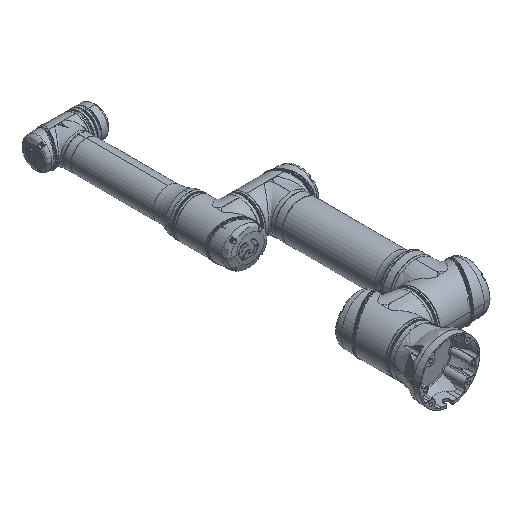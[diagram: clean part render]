
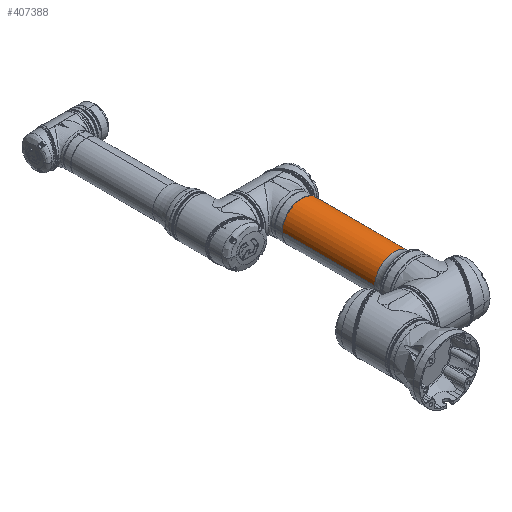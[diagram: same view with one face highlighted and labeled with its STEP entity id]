
A CAD part, isometric view. The second image highlights one B-rep face of the part: STEP entity #407388.
In plain terms, the highlighted cylindrical face has radius 48.5 mm (diameter 97 mm), a partial arc.
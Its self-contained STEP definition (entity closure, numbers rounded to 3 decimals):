
#698 = CARTESIAN_POINT ( 'NONE',  ( 116.698, 0., -189.5 ) ) ;
#4770 = EDGE_LOOP ( 'NONE', ( #519302, #203862, #13042, #338039 ) ) ;
#13042 = ORIENTED_EDGE ( 'NONE', *, *, #40452, .T. ) ;
#40452 = EDGE_CURVE ( 'NONE', #490223, #542623, #242943, .T. ) ;
#50903 = VERTEX_POINT ( 'NONE', #698 ) ;
#62669 = VECTOR ( 'NONE', #93711, 1000. ) ;
#93711 = DIRECTION ( 'NONE',  ( -1., 0., 0. ) ) ;
#108555 = CARTESIAN_POINT ( 'NONE',  ( -53.1, 0., -141. ) ) ;
#139883 = CARTESIAN_POINT ( 'NONE',  ( -53.1, 0., -189.5 ) ) ;
#178183 = EDGE_CURVE ( 'NONE', #542623, #50903, #530094, .T. ) ;
#190391 = CARTESIAN_POINT ( 'NONE',  ( 347.7, 0., -141. ) ) ;
#198238 = CARTESIAN_POINT ( 'NONE',  ( 347.7, 0., -92.5 ) ) ;
#200373 = DIRECTION ( 'NONE',  ( 0., 0., 1. ) ) ;
#203862 = ORIENTED_EDGE ( 'NONE', *, *, #601190, .T. ) ;
#242943 = LINE ( 'NONE', #572611, #62669 ) ;
#272151 = CARTESIAN_POINT ( 'NONE',  ( 116.698, 0., -92.5 ) ) ;
#316711 = CARTESIAN_POINT ( 'NONE',  ( 347.7, 0., -189.5 ) ) ;
#333891 = FACE_OUTER_BOUND ( 'NONE', #4770, .T. ) ;
#338039 = ORIENTED_EDGE ( 'NONE', *, *, #178183, .T. ) ;
#343193 = DIRECTION ( 'NONE',  ( 1., 0., 0. ) ) ;
#373360 = AXIS2_PLACEMENT_3D ( 'NONE', #448125, #343193, #200373 ) ;
#407388 = ADVANCED_FACE ( 'NONE', ( #333891 ), #552141, .T. ) ;
#434288 = LINE ( 'NONE', #139883, #584896 ) ;
#438461 = DIRECTION ( 'NONE',  ( -1., 0., 0. ) ) ;
#440530 = DIRECTION ( 'NONE',  ( 0., 0., 1. ) ) ;
#448125 = CARTESIAN_POINT ( 'NONE',  ( 116.698, 0., -141. ) ) ;
#468673 = AXIS2_PLACEMENT_3D ( 'NONE', #190391, #526503, #534777 ) ;
#482249 = VERTEX_POINT ( 'NONE', #316711 ) ;
#490223 = VERTEX_POINT ( 'NONE', #198238 ) ;
#514844 = AXIS2_PLACEMENT_3D ( 'NONE', #108555, #438461, #440530 ) ;
#519302 = ORIENTED_EDGE ( 'NONE', *, *, #573468, .F. ) ;
#526503 = DIRECTION ( 'NONE',  ( -1., 0., 0. ) ) ;
#530094 = CIRCLE ( 'NONE', #373360, 48.5 ) ;
#534777 = DIRECTION ( 'NONE',  ( 0., 0., 1. ) ) ;
#542623 = VERTEX_POINT ( 'NONE', #272151 ) ;
#544546 = CIRCLE ( 'NONE', #468673, 48.5 ) ;
#552141 = CYLINDRICAL_SURFACE ( 'NONE', #514844, 48.5 ) ;
#572611 = CARTESIAN_POINT ( 'NONE',  ( -53.1, 0., -92.5 ) ) ;
#573468 = EDGE_CURVE ( 'NONE', #482249, #50903, #434288, .T. ) ;
#584896 = VECTOR ( 'NONE', #620791, 1000. ) ;
#601190 = EDGE_CURVE ( 'NONE', #482249, #490223, #544546, .T. ) ;
#620791 = DIRECTION ( 'NONE',  ( -1., 0., 0. ) ) ;
